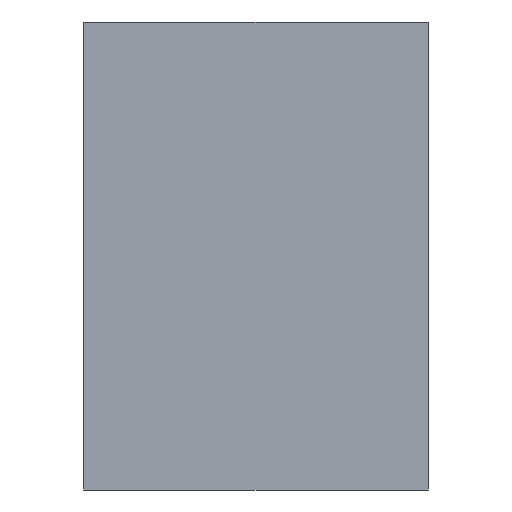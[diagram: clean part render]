
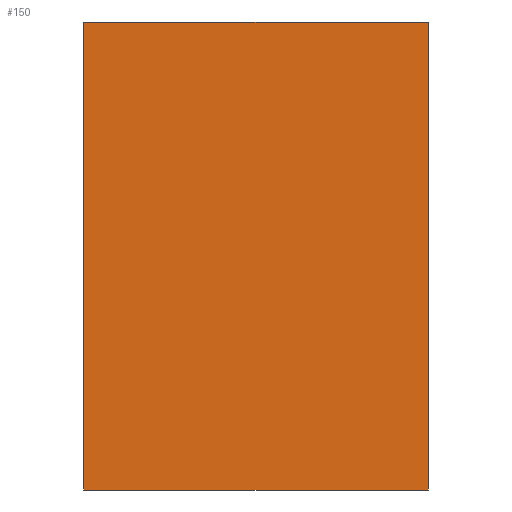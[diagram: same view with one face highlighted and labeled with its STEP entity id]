
A CAD part, front view. The second image highlights one B-rep face of the part: STEP entity #150.
In plain terms, the highlighted planar face has unit normal (0, -1, 0).
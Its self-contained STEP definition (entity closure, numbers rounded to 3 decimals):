
#107=PLANE('',#623);
#121=FACE_OUTER_BOUND('',#297,.T.);
#123=LINE('',#875,#135);
#124=LINE('',#878,#136);
#125=LINE('',#880,#137);
#126=LINE('',#882,#138);
#135=VECTOR('',#711,1.);
#136=VECTOR('',#712,1.);
#137=VECTOR('',#713,1.);
#138=VECTOR('',#714,1.);
#150=ADVANCED_FACE('',(#121),#107,.F.);
#297=EDGE_LOOP('',(#379,#380,#381,#382));
#379=ORIENTED_EDGE('',*,*,#531,.T.);
#380=ORIENTED_EDGE('',*,*,#532,.F.);
#381=ORIENTED_EDGE('',*,*,#533,.F.);
#382=ORIENTED_EDGE('',*,*,#534,.T.);
#479=VERTEX_POINT('',#876);
#480=VERTEX_POINT('',#877);
#481=VERTEX_POINT('',#879);
#482=VERTEX_POINT('',#881);
#531=EDGE_CURVE('',#479,#480,#123,.T.);
#532=EDGE_CURVE('',#481,#480,#124,.T.);
#533=EDGE_CURVE('',#482,#481,#125,.T.);
#534=EDGE_CURVE('',#482,#479,#126,.T.);
#623=AXIS2_PLACEMENT_3D('',#883,#715,#716);
#711=DIRECTION('',(0.,0.,1.));
#712=DIRECTION('',(1.,0.,0.));
#713=DIRECTION('',(0.,0.,1.));
#714=DIRECTION('',(1.,0.,0.));
#715=DIRECTION('',(0.,1.,0.));
#716=DIRECTION('',(0.,0.,1.));
#875=CARTESIAN_POINT('',(0.,-80.,-67.));
#876=CARTESIAN_POINT('',(0.,-80.,-67.));
#877=CARTESIAN_POINT('',(0.,-80.,69.));
#878=CARTESIAN_POINT('',(-100.,-80.,69.));
#879=CARTESIAN_POINT('',(-100.,-80.,69.));
#880=CARTESIAN_POINT('',(-100.,-80.,-67.));
#881=CARTESIAN_POINT('',(-100.,-80.,-67.));
#882=CARTESIAN_POINT('',(-100.,-80.,-67.));
#883=CARTESIAN_POINT('',(-100.,-80.,-67.));
